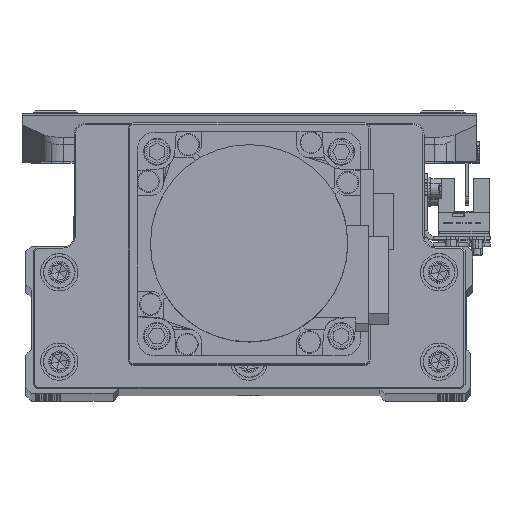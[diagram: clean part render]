
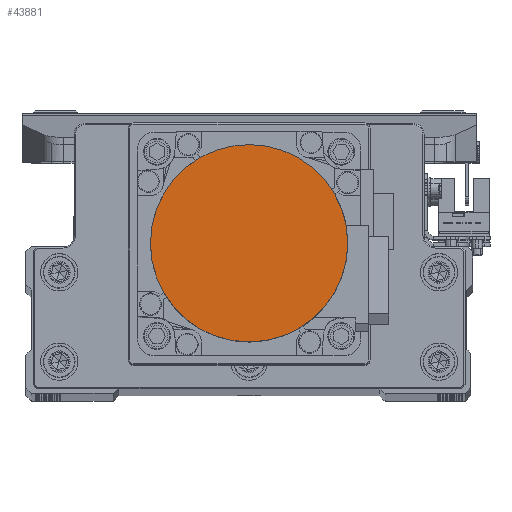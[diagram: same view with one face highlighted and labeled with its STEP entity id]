
A CAD part, top view. The second image highlights one B-rep face of the part: STEP entity #43881.
In plain terms, the highlighted planar face has unit normal (0, 0, 1) as drawn and (0, 0, -1) by its records, which use the part's own axes.
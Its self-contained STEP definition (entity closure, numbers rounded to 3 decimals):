
#1334 = ORIENTED_EDGE ( 'NONE', *, *, #1768, .F. ) ;
#1615 = AXIS2_PLACEMENT_3D ( 'NONE', #13450, #28026, #42601 ) ;
#1768 = EDGE_CURVE ( 'NONE', #29578, #13629, #11109, .T. ) ;
#4792 = DIRECTION ( 'NONE',  ( 0., 0., 1. ) ) ;
#5012 = AXIS2_PLACEMENT_3D ( 'NONE', #47092, #14335, #28909 ) ;
#8340 = FACE_OUTER_BOUND ( 'NONE', #15885, .T. ) ;
#11109 = CIRCLE ( 'NONE', #5012, 26.5 ) ;
#13450 = CARTESIAN_POINT ( 'NONE',  ( 0., 0., -109.7 ) ) ;
#13629 = VERTEX_POINT ( 'NONE', #46253 ) ;
#14335 = DIRECTION ( 'NONE',  ( 0., 0., 1. ) ) ;
#15427 = EDGE_CURVE ( 'NONE', #13629, #29578, #16095, .T. ) ;
#15885 = EDGE_LOOP ( 'NONE', ( #1334, #46013 ) ) ;
#16095 = CIRCLE ( 'NONE', #1615, 26.5 ) ;
#19365 = DIRECTION ( 'NONE',  ( 1., 0., 0. ) ) ;
#21700 = AXIS2_PLACEMENT_3D ( 'NONE', #37520, #4792, #19365 ) ;
#22924 = PLANE ( 'NONE',  #21700 ) ;
#28026 = DIRECTION ( 'NONE',  ( 0., 0., 1. ) ) ;
#28909 = DIRECTION ( 'NONE',  ( -1., 0., 0. ) ) ;
#29578 = VERTEX_POINT ( 'NONE', #42103 ) ;
#37520 = CARTESIAN_POINT ( 'NONE',  ( 0., 0., -109.7 ) ) ;
#42103 = CARTESIAN_POINT ( 'NONE',  ( -26.5, 0., -109.7 ) ) ;
#42601 = DIRECTION ( 'NONE',  ( 1., 0., 0. ) ) ;
#43881 = ADVANCED_FACE ( 'NONE', ( #8340 ), #22924, .F. ) ;
#46013 = ORIENTED_EDGE ( 'NONE', *, *, #15427, .F. ) ;
#46253 = CARTESIAN_POINT ( 'NONE',  ( 26.5, 0., -109.7 ) ) ;
#47092 = CARTESIAN_POINT ( 'NONE',  ( 0., 0., -109.7 ) ) ;
